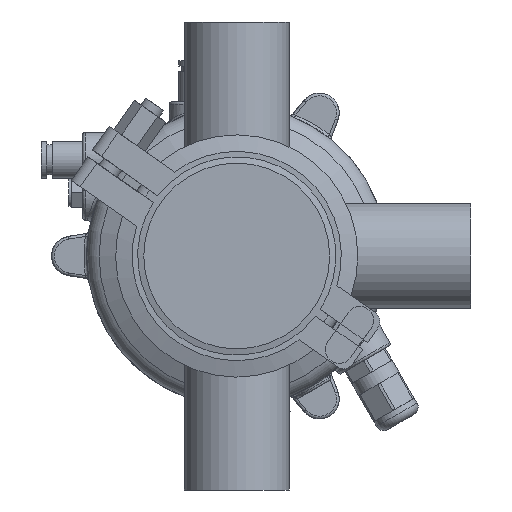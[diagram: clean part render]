
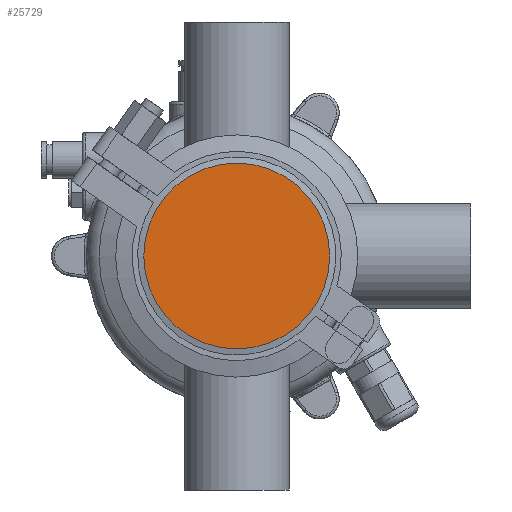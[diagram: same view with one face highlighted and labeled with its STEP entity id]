
A CAD part, front view. The second image highlights one B-rep face of the part: STEP entity #25729.
In plain terms, the highlighted planar face has unit normal (0, -1, 0).
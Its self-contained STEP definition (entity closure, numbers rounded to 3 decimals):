
#1222 = CARTESIAN_POINT ( 'NONE',  ( 0., 0., 0. ) ) ;
#2579 = EDGE_LOOP ( 'NONE', ( #54655 ) ) ;
#11206 = DIRECTION ( 'NONE',  ( 0., 1., 0. ) ) ;
#16332 = FACE_OUTER_BOUND ( 'NONE', #2579, .T. ) ;
#16634 = CARTESIAN_POINT ( 'NONE',  ( -33.75, 0., 0. ) ) ;
#24123 = VERTEX_POINT ( 'NONE', #28645 ) ;
#24621 = DIRECTION ( 'NONE',  ( 0., 0., -1. ) ) ;
#25729 = ADVANCED_FACE ( 'NONE', ( #16332 ), #52920, .T. ) ;
#28645 = CARTESIAN_POINT ( 'NONE',  ( 0., 0., 33.75 ) ) ;
#33741 = DIRECTION ( 'NONE',  ( 0., 0., 1. ) ) ;
#36925 = AXIS2_PLACEMENT_3D ( 'NONE', #1222, #11206, #33741 ) ;
#38854 = DIRECTION ( 'NONE',  ( 0., -1., 0. ) ) ;
#39827 = CIRCLE ( 'NONE', #36925, 33.75 ) ;
#44842 = EDGE_CURVE ( 'NONE', #24123, #24123, #39827, .T. ) ;
#52920 = PLANE ( 'NONE',  #54517 ) ;
#54517 = AXIS2_PLACEMENT_3D ( 'NONE', #16634, #38854, #24621 ) ;
#54655 = ORIENTED_EDGE ( 'NONE', *, *, #44842, .F. ) ;
